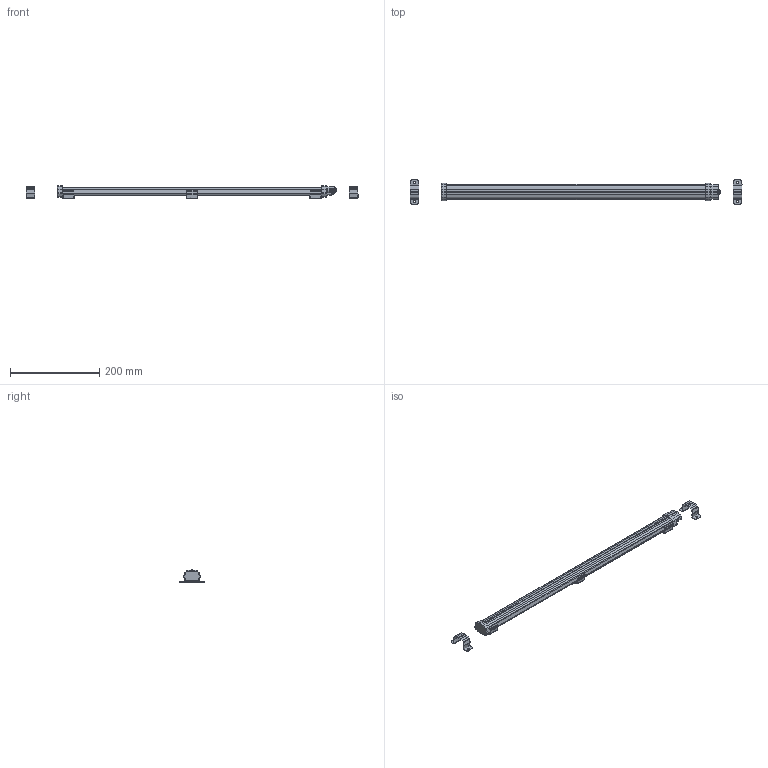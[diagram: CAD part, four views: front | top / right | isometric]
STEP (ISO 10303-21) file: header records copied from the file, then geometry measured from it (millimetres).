
FILE_DESCRIPTION (( 'STEP AP203' ), '1' );
FILE_NAME ('CWA-6(01)-01.STEP', '2016-11-17T03:26:31', ( '' ), ( '' ), 'SwSTEP 2.0', 'SolidWorks 2015', '' );
FILE_SCHEMA (( 'CONFIG_CONTROL_DESIGN' ));
Length unit declared in the file: inch
Products named in the file (7): Bracket2; Bracket3; Holding Bracket1; Holding Bracket2; CWA-6(01)-01; Light Bar; Bracket1
Assembly tree (6 placements, depth 2):
  CWA-6(01)-01
    Light Bar
    Bracket1
    Bracket2
    Bracket3
    Holding Bracket1
    Holding Bracket2
Bounding box: 744 x 54 x 27.2 mm (x, y, z)
Volume: 350793.9 mm3; surface area: 75459.8 mm2
Topology: 6 solids, 6 shells, 408 faces, 1084 edges, 692 vertices
Faces by surface type: plane 267, cylinder 103, bspline 36, cone 2
Entity records: 15923 total; most frequent: CARTESIAN_POINT 5503, ORIENTED_EDGE 2168, DIRECTION 1778, EDGE_CURVE 1084, VECTOR 836, LINE 836, VERTEX_POINT 692, AXIS2_PLACEMENT_3D 471
